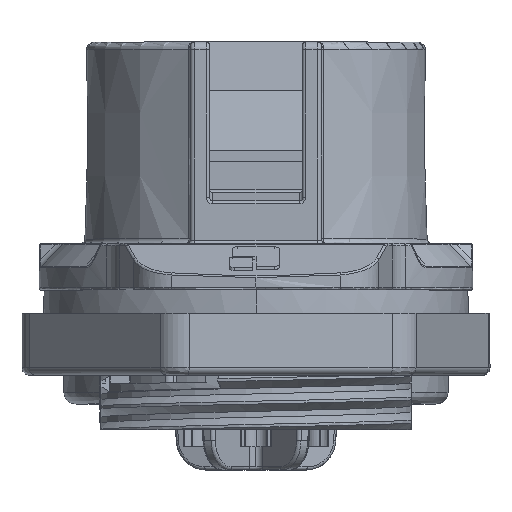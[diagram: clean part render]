
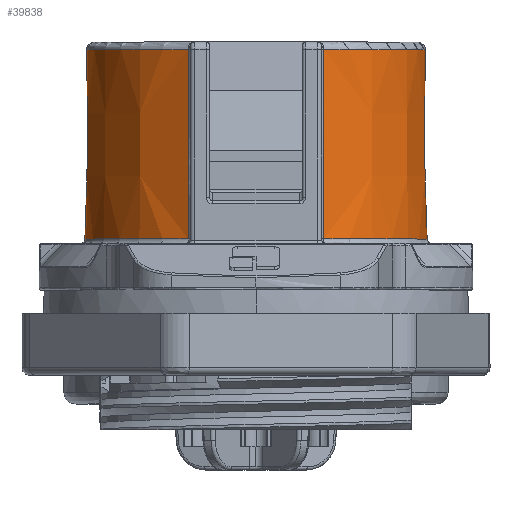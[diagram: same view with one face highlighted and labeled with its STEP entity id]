
A CAD part, top view. The second image highlights one B-rep face of the part: STEP entity #39838.
In plain terms, the highlighted conical face has half-angle 0.5 degrees and reference radius 11.05 mm.
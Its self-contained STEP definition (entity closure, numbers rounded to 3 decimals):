
#2805 = CARTESIAN_POINT ( 'NONE',  ( -4.371, 34.697, 10.127 ) ) ;
#4444 = ORIENTED_EDGE ( 'NONE', *, *, #28523, .T. ) ;
#4464 = CARTESIAN_POINT ( 'NONE',  ( 4.371, 35.236, 10.122 ) ) ;
#6241 = VERTEX_POINT ( 'NONE', #29911 ) ;
#7848 = CARTESIAN_POINT ( 'NONE',  ( -4.371, 36.831, 10.107 ) ) ;
#8742 = CARTESIAN_POINT ( 'NONE',  ( -4.371, 33.097, 10.142 ) ) ;
#9302 = CARTESIAN_POINT ( 'NONE',  ( 4.37, 43.971, 10.039 ) ) ;
#9762 = ORIENTED_EDGE ( 'NONE', *, *, #32034, .T. ) ;
#9860 = DIRECTION ( 'NONE',  ( 0., 0., 1. ) ) ;
#10438 = CARTESIAN_POINT ( 'NONE',  ( 0., 32.697, 0. ) ) ;
#13884 = B_SPLINE_CURVE_WITH_KNOTS ( 'NONE', 3,
 ( #30275, #46427, #19918, #15045, #9302, #30055, #46644, #67220, #25641, #62557, #4464, #24990, #14822 ),
 .UNSPECIFIED., .F., .F.,
 ( 4, 3, 3, 3, 4 ),
 ( 0., 0., 0.002, 0.008, 0.012 ),
 .UNSPECIFIED. ) ;
#14822 = CARTESIAN_POINT ( 'NONE',  ( 4.371, 32.697, 10.146 ) ) ;
#15045 = CARTESIAN_POINT ( 'NONE',  ( 4.37, 44.504, 10.034 ) ) ;
#17301 = DIRECTION ( 'NONE',  ( 0., 0., 1. ) ) ;
#18754 = B_SPLINE_CURVE_WITH_KNOTS ( 'NONE', 3,
 ( #35052, #50531, #40392, #8742, #45660, #19373, #2805, #7848, #29964, #39720, #67130, #46558, #67565 ),
 .UNSPECIFIED., .F., .F.,
 ( 4, 3, 3, 3, 4 ),
 ( 0., 0., 0.002, 0.008, 0.012 ),
 .UNSPECIFIED. ) ;
#19373 = CARTESIAN_POINT ( 'NONE',  ( -4.371, 34.164, 10.132 ) ) ;
#19918 = CARTESIAN_POINT ( 'NONE',  ( 4.37, 44.638, 10.033 ) ) ;
#22241 = AXIS2_PLACEMENT_3D ( 'NONE', #10438, #59074, #46109 ) ;
#24990 = CARTESIAN_POINT ( 'NONE',  ( 4.371, 33.967, 10.134 ) ) ;
#25641 = CARTESIAN_POINT ( 'NONE',  ( 4.371, 38.638, 10.09 ) ) ;
#25651 = VERTEX_POINT ( 'NONE', #42130 ) ;
#28523 = EDGE_CURVE ( 'NONE', #54874, #6241, #13884, .T. ) ;
#29911 = CARTESIAN_POINT ( 'NONE',  ( 4.371, 32.697, 10.146 ) ) ;
#29964 = CARTESIAN_POINT ( 'NONE',  ( -4.37, 38.964, 10.087 ) ) ;
#30055 = CARTESIAN_POINT ( 'NONE',  ( 4.37, 43.438, 10.044 ) ) ;
#30275 = CARTESIAN_POINT ( 'NONE',  ( 4.37, 44.904, 10.03 ) ) ;
#31045 = DIRECTION ( 'NONE',  ( 0., -1., 0. ) ) ;
#32034 = EDGE_CURVE ( 'NONE', #58103, #25651, #18754, .T. ) ;
#35052 = CARTESIAN_POINT ( 'NONE',  ( -4.371, 32.697, 10.146 ) ) ;
#39720 = CARTESIAN_POINT ( 'NONE',  ( -4.37, 41.097, 10.066 ) ) ;
#39838 = ADVANCED_FACE ( 'NONE', ( #64062 ), #68336, .T. ) ;
#40392 = CARTESIAN_POINT ( 'NONE',  ( -4.371, 32.964, 10.143 ) ) ;
#40891 = CARTESIAN_POINT ( 'NONE',  ( 4.37, 44.904, 10.03 ) ) ;
#41279 = EDGE_LOOP ( 'NONE', ( #47802, #9762, #62282, #4444 ) ) ;
#41685 = CIRCLE ( 'NONE', #52547, 10.941 ) ;
#42130 = CARTESIAN_POINT ( 'NONE',  ( -4.37, 44.904, 10.03 ) ) ;
#45660 = CARTESIAN_POINT ( 'NONE',  ( -4.371, 33.631, 10.137 ) ) ;
#46109 = DIRECTION ( 'NONE',  ( 0., 0., -1. ) ) ;
#46427 = CARTESIAN_POINT ( 'NONE',  ( 4.37, 44.771, 10.031 ) ) ;
#46558 = CARTESIAN_POINT ( 'NONE',  ( -4.37, 43.635, 10.042 ) ) ;
#46644 = CARTESIAN_POINT ( 'NONE',  ( 4.37, 42.904, 10.049 ) ) ;
#47461 = EDGE_CURVE ( 'NONE', #25651, #54874, #41685, .T. ) ;
#47802 = ORIENTED_EDGE ( 'NONE', *, *, #53556, .T. ) ;
#49299 = CARTESIAN_POINT ( 'NONE',  ( -4.371, 32.697, 10.146 ) ) ;
#50531 = CARTESIAN_POINT ( 'NONE',  ( -4.371, 32.831, 10.145 ) ) ;
#52547 = AXIS2_PLACEMENT_3D ( 'NONE', #62645, #31045, #9860 ) ;
#53539 = AXIS2_PLACEMENT_3D ( 'NONE', #65290, #65054, #17301 ) ;
#53556 = EDGE_CURVE ( 'NONE', #6241, #58103, #59480, .T. ) ;
#54874 = VERTEX_POINT ( 'NONE', #40891 ) ;
#58103 = VERTEX_POINT ( 'NONE', #49299 ) ;
#59074 = DIRECTION ( 'NONE',  ( 0., 1., 0. ) ) ;
#59480 = CIRCLE ( 'NONE', #22241, 11.047 ) ;
#62282 = ORIENTED_EDGE ( 'NONE', *, *, #47461, .T. ) ;
#62557 = CARTESIAN_POINT ( 'NONE',  ( 4.371, 36.505, 10.11 ) ) ;
#62645 = CARTESIAN_POINT ( 'NONE',  ( 0., 44.904, 0. ) ) ;
#64062 = FACE_OUTER_BOUND ( 'NONE', #41279, .T. ) ;
#65054 = DIRECTION ( 'NONE',  ( 0., -1., 0. ) ) ;
#65290 = CARTESIAN_POINT ( 'NONE',  ( 0., 32.4, 0. ) ) ;
#67130 = CARTESIAN_POINT ( 'NONE',  ( -4.37, 42.366, 10.054 ) ) ;
#67220 = CARTESIAN_POINT ( 'NONE',  ( 4.37, 40.771, 10.069 ) ) ;
#67565 = CARTESIAN_POINT ( 'NONE',  ( -4.37, 44.904, 10.03 ) ) ;
#68336 = CONICAL_SURFACE ( 'NONE', #53539, 11.05, 0.009 ) ;
